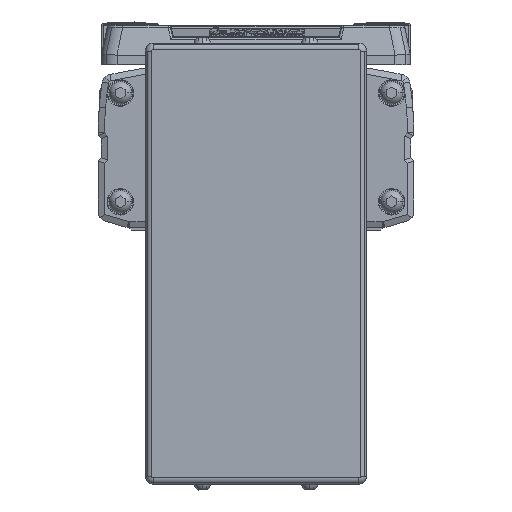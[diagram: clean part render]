
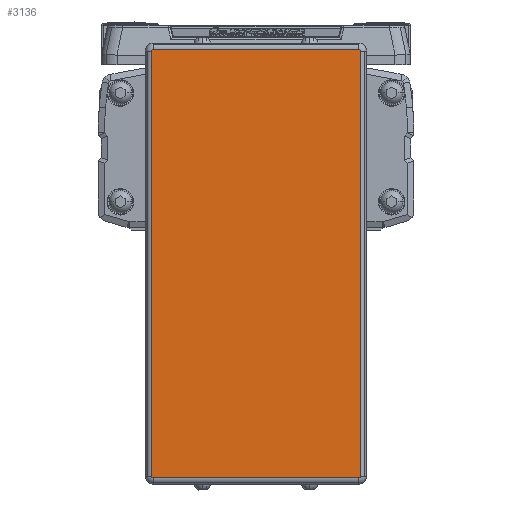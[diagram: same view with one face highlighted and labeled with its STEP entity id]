
A CAD part, left-side view. The second image highlights one B-rep face of the part: STEP entity #3136.
In plain terms, the highlighted planar face has unit normal (-1, 0, 0).
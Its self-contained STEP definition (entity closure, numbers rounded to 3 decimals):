
#3136=ADVANCED_FACE('',(#7612),#7613,.F.);
#7612=FACE_OUTER_BOUND('',#13843,.T.);
#7613=PLANE('',#13844);
#13843=EDGE_LOOP('',(#22716,#22717,#22718,#22719,#22720,#22721,#22722,#22723));
#13844=AXIS2_PLACEMENT_3D('',#22724,#22725,#22726);
#22716=ORIENTED_EDGE('',*,*,#38671,.T.);
#22717=ORIENTED_EDGE('',*,*,#38672,.T.);
#22718=ORIENTED_EDGE('',*,*,#38673,.T.);
#22719=ORIENTED_EDGE('',*,*,#36450,.T.);
#22720=ORIENTED_EDGE('',*,*,#38078,.T.);
#22721=ORIENTED_EDGE('',*,*,#38674,.T.);
#22722=ORIENTED_EDGE('',*,*,#38675,.T.);
#22723=ORIENTED_EDGE('',*,*,#38676,.T.);
#22724=CARTESIAN_POINT('',(-616.0,0.,-41.6));
#22725=DIRECTION('',(1.0,0.,0.));
#22726=DIRECTION('',(0.,0.,1.0));
#36450=EDGE_CURVE('',#43360,#43357,#43361,.T.);
#38078=EDGE_CURVE('',#43357,#46195,#46197,.T.);
#38671=EDGE_CURVE('',#47170,#47171,#47172,.T.);
#38672=EDGE_CURVE('',#47171,#47173,#47174,.T.);
#38673=EDGE_CURVE('',#47173,#43360,#47175,.T.);
#38674=EDGE_CURVE('',#46195,#47176,#47177,.T.);
#38675=EDGE_CURVE('',#47176,#47178,#47179,.T.);
#38676=EDGE_CURVE('',#47178,#47170,#47180,.T.);
#43357=VERTEX_POINT('',#53458);
#43360=VERTEX_POINT('',#53461);
#43361=CIRCLE('',#53462,0.5);
#46195=VERTEX_POINT('',#57216);
#46197=LINE('',#57218,#57219);
#47170=VERTEX_POINT('',#58763);
#47171=VERTEX_POINT('',#58764);
#47172=LINE('',#58765,#58766);
#47173=VERTEX_POINT('',#58767);
#47174=CIRCLE('',#58768,0.5);
#47175=LINE('',#58769,#58770);
#47176=VERTEX_POINT('',#58771);
#47177=CIRCLE('',#58772,0.5);
#47178=VERTEX_POINT('',#58773);
#47179=LINE('',#58774,#58775);
#47180=CIRCLE('',#58776,0.5);
#53458=CARTESIAN_POINT('',(-616.,33.05,25.8));
#53461=CARTESIAN_POINT('',(-616.,32.55,26.3));
#53462=AXIS2_PLACEMENT_3D('',#67056,#67057,#67058);
#57216=CARTESIAN_POINT('',(-616.0,33.05,-109.));
#57218=CARTESIAN_POINT('',(-616.0,33.05,-41.6));
#57219=VECTOR('',#69362,10.0);
#58763=CARTESIAN_POINT('',(-616.0,-33.05,-109.));
#58764=CARTESIAN_POINT('',(-616.,-33.05,25.8));
#58765=CARTESIAN_POINT('',(-616.,-33.05,-41.6));
#58766=VECTOR('',#70086,10.0);
#58767=CARTESIAN_POINT('',(-616.,-32.55,26.3));
#58768=AXIS2_PLACEMENT_3D('',#70087,#70088,#70089);
#58769=CARTESIAN_POINT('',(-616.,0.,26.3));
#58770=VECTOR('',#70090,10.0);
#58771=CARTESIAN_POINT('',(-616.0,32.55,-109.5));
#58772=AXIS2_PLACEMENT_3D('',#70091,#70092,#70093);
#58773=CARTESIAN_POINT('',(-616.0,-32.55,-109.5));
#58774=CARTESIAN_POINT('',(-616.0,0.,-109.5));
#58775=VECTOR('',#70094,10.0);
#58776=AXIS2_PLACEMENT_3D('',#70095,#70096,#70097);
#67056=CARTESIAN_POINT('',(-616.,32.55,25.8));
#67057=DIRECTION('',(-1.0,0.,0.));
#67058=DIRECTION('',(0.,0.707,0.707));
#69362=DIRECTION('',(0.,0.,-1.0));
#70086=DIRECTION('',(0.,0.,1.0));
#70087=CARTESIAN_POINT('',(-616.,-32.55,25.8));
#70088=DIRECTION('',(-1.0,0.,0.));
#70089=DIRECTION('',(0.,-0.707,0.707));
#70090=DIRECTION('',(0.,1.0,0.));
#70091=CARTESIAN_POINT('',(-616.0,32.55,-109.));
#70092=DIRECTION('',(-1.0,0.,0.));
#70093=DIRECTION('',(0.,0.707,-0.707));
#70094=DIRECTION('',(0.,-1.0,0.));
#70095=CARTESIAN_POINT('',(-616.0,-32.55,-109.));
#70096=DIRECTION('',(-1.0,0.,0.));
#70097=DIRECTION('',(0.,-0.707,-0.707));
